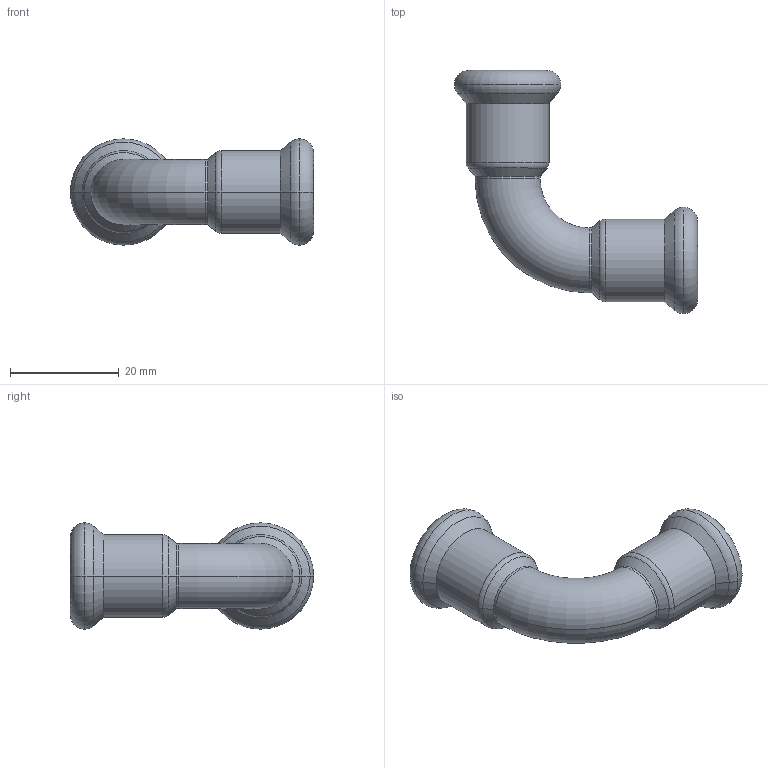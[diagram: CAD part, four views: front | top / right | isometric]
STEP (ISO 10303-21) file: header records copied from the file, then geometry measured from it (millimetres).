
FILE_DESCRIPTION(('CoCreate Modeling STEP Export'),'2;1');
FILE_NAME('C1408 12x12.stp','2014-11-07T16:40:26',(''),(''),'CoCreate Modeling STEP processor for AP214 (Solid Model)','CoCreate Modeling 17.00A 17-Jun-2010 (C) Parametric Technology GmbH','');
FILE_SCHEMA(('AUTOMOTIVE_DESIGN { 1 0 10303 214 1 1 1 1 }'));
Length unit declared in the file: millimetre
Products named in the file (2): C1408_12x12
Assembly tree (1 placements, depth 2):
  C1408_12x12
    C1408_12x12
Bounding box: 44.8 x 44.8 x 19.6 mm (x, y, z)
Volume: 4566.4 mm3; surface area: 5620.5 mm2
Topology: 1 solids, 1 shells, 50 faces, 104 edges, 60 vertices
Faces by surface type: cylinder 20, torus 16, cone 8, plane 6
Entity records: 1119 total; most frequent: ORIENTED_EDGE 208, DIRECTION 176, CARTESIAN_POINT 162, EDGE_CURVE 104, AXIS2_PLACEMENT_3D 74, VERTEX_POINT 60, EDGE_LOOP 56, FACE_OUTER_BOUND 50
